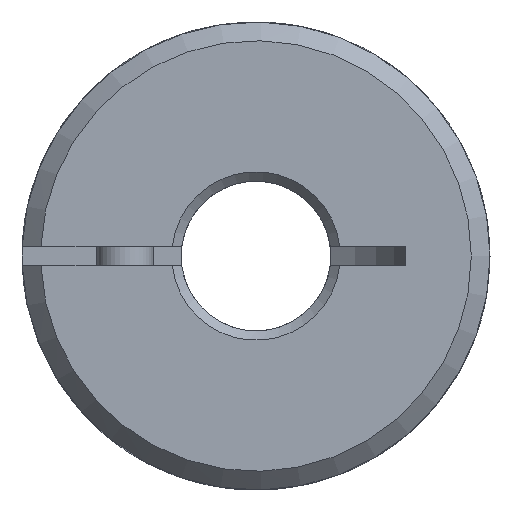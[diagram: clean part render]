
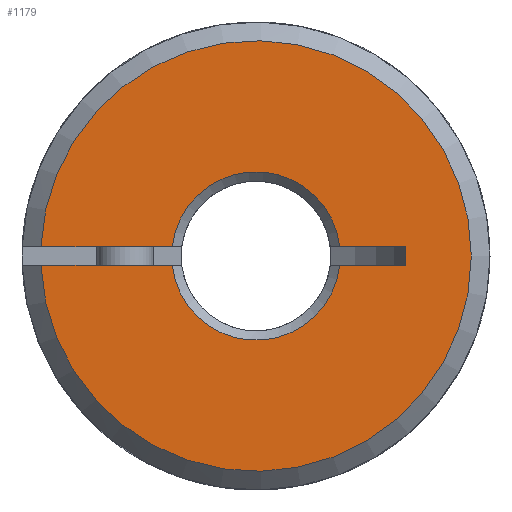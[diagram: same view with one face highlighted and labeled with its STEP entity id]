
A CAD part, left-side view. The second image highlights one B-rep face of the part: STEP entity #1179.
In plain terms, the highlighted planar face has unit normal (-1, 0, 0).
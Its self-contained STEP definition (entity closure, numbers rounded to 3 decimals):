
#137=LINE('',#1980,#214);
#138=LINE('',#1985,#215);
#139=LINE('',#1987,#216);
#140=LINE('',#1989,#217);
#141=LINE('',#1993,#218);
#214=VECTOR('',#1547,1000.);
#215=VECTOR('',#1550,1000.);
#216=VECTOR('',#1551,1000.);
#217=VECTOR('',#1552,1000.);
#218=VECTOR('',#1555,1000.);
#353=ORIENTED_EDGE('',*,*,#644,.F.);
#354=ORIENTED_EDGE('',*,*,#645,.T.);
#355=ORIENTED_EDGE('',*,*,#646,.F.);
#356=ORIENTED_EDGE('',*,*,#647,.T.);
#357=ORIENTED_EDGE('',*,*,#648,.T.);
#358=ORIENTED_EDGE('',*,*,#649,.T.);
#359=ORIENTED_EDGE('',*,*,#650,.T.);
#360=ORIENTED_EDGE('',*,*,#651,.F.);
#644=EDGE_CURVE('',#795,#796,#137,.T.);
#645=EDGE_CURVE('',#795,#797,#856,.T.);
#646=EDGE_CURVE('',#798,#797,#138,.T.);
#647=EDGE_CURVE('',#798,#799,#139,.T.);
#648=EDGE_CURVE('',#799,#800,#140,.T.);
#649=EDGE_CURVE('',#800,#801,#857,.T.);
#650=EDGE_CURVE('',#801,#802,#141,.T.);
#651=EDGE_CURVE('',#796,#802,#858,.T.);
#795=VERTEX_POINT('',#1981);
#796=VERTEX_POINT('',#1982);
#797=VERTEX_POINT('',#1984);
#798=VERTEX_POINT('',#1986);
#799=VERTEX_POINT('',#1988);
#800=VERTEX_POINT('',#1990);
#801=VERTEX_POINT('',#1992);
#802=VERTEX_POINT('',#1994);
#856=CIRCLE('',#1313,4.5);
#857=CIRCLE('',#1314,4.5);
#858=CIRCLE('',#1315,11.5);
#916=EDGE_LOOP('',(#353,#354,#355,#356,#357,#358,#359,#360));
#1035=FACE_BOUND('',#916,.T.);
#1126=PLANE('',#1312);
#1179=ADVANCED_FACE('',(#1035),#1126,.T.);
#1312=AXIS2_PLACEMENT_3D('',#1979,#1545,#1546);
#1313=AXIS2_PLACEMENT_3D('',#1983,#1548,#1549);
#1314=AXIS2_PLACEMENT_3D('',#1991,#1553,#1554);
#1315=AXIS2_PLACEMENT_3D('',#1995,#1556,#1557);
#1545=DIRECTION('',(-1.,0.,0.));
#1546=DIRECTION('',(0.,0.,1.));
#1547=DIRECTION('',(0.,1.,0.));
#1548=DIRECTION('',(1.,0.,0.));
#1549=DIRECTION('',(0.,0.,-1.));
#1550=DIRECTION('',(0.,1.,0.));
#1551=DIRECTION('',(0.,0.,-1.));
#1552=DIRECTION('',(0.,1.,0.));
#1553=DIRECTION('',(1.,0.,0.));
#1554=DIRECTION('',(0.,0.,-1.));
#1555=DIRECTION('',(0.,1.,0.));
#1556=DIRECTION('',(1.,0.,0.));
#1557=DIRECTION('',(0.,0.,-1.));
#1979=CARTESIAN_POINT('',(0.,11.5,0.));
#1980=CARTESIAN_POINT('',(0.,11.5,0.5));
#1981=CARTESIAN_POINT('',(0.,4.472,0.5));
#1982=CARTESIAN_POINT('',(0.,11.489,0.5));
#1983=CARTESIAN_POINT('',(0.,0.,0.));
#1984=CARTESIAN_POINT('',(0.,-4.472,0.5));
#1985=CARTESIAN_POINT('',(0.,11.5,0.5));
#1986=CARTESIAN_POINT('',(0.,-8.006,0.5));
#1987=CARTESIAN_POINT('',(0.,-8.006,0.5));
#1988=CARTESIAN_POINT('',(0.,-8.006,-0.5));
#1989=CARTESIAN_POINT('',(0.,11.5,-0.5));
#1990=CARTESIAN_POINT('',(0.,-4.472,-0.5));
#1991=CARTESIAN_POINT('',(0.,0.,0.));
#1992=CARTESIAN_POINT('',(0.,4.472,-0.5));
#1993=CARTESIAN_POINT('',(0.,11.5,-0.5));
#1994=CARTESIAN_POINT('',(0.,11.489,-0.5));
#1995=CARTESIAN_POINT('',(0.,0.,0.));
